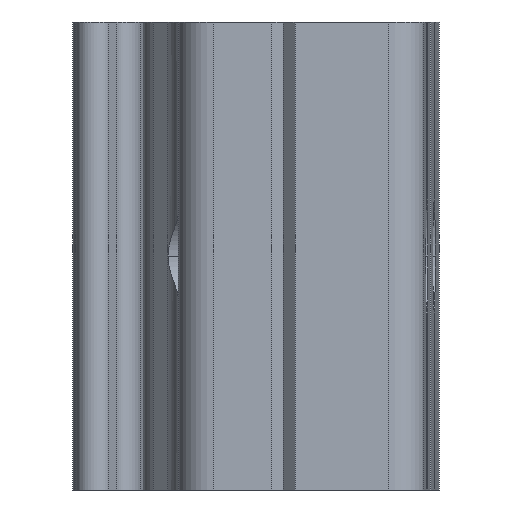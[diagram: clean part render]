
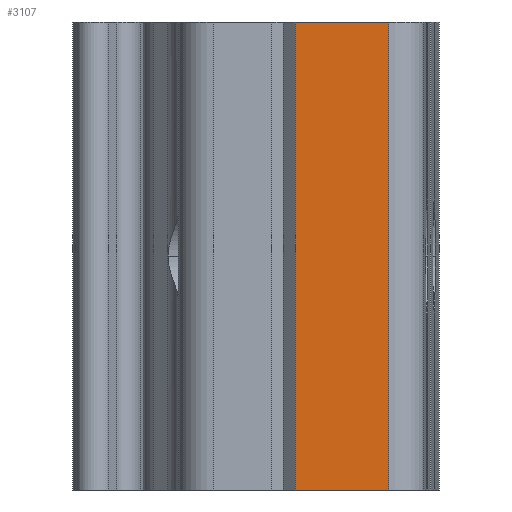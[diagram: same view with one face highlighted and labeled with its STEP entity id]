
A CAD part, front view. The second image highlights one B-rep face of the part: STEP entity #3107.
In plain terms, the highlighted planar face has unit normal (0, -1, 0).
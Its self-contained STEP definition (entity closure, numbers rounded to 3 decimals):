
#167 = VECTOR ( 'NONE', #1048, 1000. ) ;
#202 = VECTOR ( 'NONE', #1640, 1000. ) ;
#362 = ORIENTED_EDGE ( 'NONE', *, *, #2849, .T. ) ;
#489 = LINE ( 'NONE', #3278, #2084 ) ;
#506 = LINE ( 'NONE', #2096, #167 ) ;
#529 = CARTESIAN_POINT ( 'NONE',  ( 2.931, -67.73, 20. ) ) ;
#572 = FACE_OUTER_BOUND ( 'NONE', #1275, .T. ) ;
#729 = PLANE ( 'NONE',  #1877 ) ;
#745 = CARTESIAN_POINT ( 'NONE',  ( -5.07, -67.73, 20. ) ) ;
#1048 = DIRECTION ( 'NONE',  ( 1., 0., 0. ) ) ;
#1254 = ORIENTED_EDGE ( 'NONE', *, *, #3271, .F. ) ;
#1275 = EDGE_LOOP ( 'NONE', ( #2665, #3408, #1254, #362 ) ) ;
#1381 = CARTESIAN_POINT ( 'NONE',  ( -5.07, -67.73, 20. ) ) ;
#1407 = VERTEX_POINT ( 'NONE', #2270 ) ;
#1569 = LINE ( 'NONE', #2157, #202 ) ;
#1640 = DIRECTION ( 'NONE',  ( 1., 0., 0. ) ) ;
#1762 = EDGE_CURVE ( 'NONE', #2749, #1407, #1569, .T. ) ;
#1774 = DIRECTION ( 'NONE',  ( -1., 0., 0. ) ) ;
#1805 = LINE ( 'NONE', #1381, #2002 ) ;
#1877 = AXIS2_PLACEMENT_3D ( 'NONE', #745, #3110, #1774 ) ;
#2002 = VECTOR ( 'NONE', #2994, 1000. ) ;
#2084 = VECTOR ( 'NONE', #2464, 1000. ) ;
#2096 = CARTESIAN_POINT ( 'NONE',  ( -5.07, -67.73, 20. ) ) ;
#2112 = CARTESIAN_POINT ( 'NONE',  ( -5.07, -67.73, -20. ) ) ;
#2157 = CARTESIAN_POINT ( 'NONE',  ( -5.07, -67.73, -20. ) ) ;
#2270 = CARTESIAN_POINT ( 'NONE',  ( 2.931, -67.73, -20. ) ) ;
#2279 = CARTESIAN_POINT ( 'NONE',  ( -5.07, -67.73, 20. ) ) ;
#2464 = DIRECTION ( 'NONE',  ( 0., 0., -1. ) ) ;
#2495 = VERTEX_POINT ( 'NONE', #2279 ) ;
#2665 = ORIENTED_EDGE ( 'NONE', *, *, #1762, .T. ) ;
#2707 = VERTEX_POINT ( 'NONE', #529 ) ;
#2749 = VERTEX_POINT ( 'NONE', #2112 ) ;
#2849 = EDGE_CURVE ( 'NONE', #2495, #2749, #1805, .T. ) ;
#2994 = DIRECTION ( 'NONE',  ( 0., 0., -1. ) ) ;
#3032 = EDGE_CURVE ( 'NONE', #2707, #1407, #489, .T. ) ;
#3107 = ADVANCED_FACE ( 'NONE', ( #572 ), #729, .F. ) ;
#3110 = DIRECTION ( 'NONE',  ( 0., 1., 0. ) ) ;
#3271 = EDGE_CURVE ( 'NONE', #2495, #2707, #506, .T. ) ;
#3278 = CARTESIAN_POINT ( 'NONE',  ( 2.931, -67.73, 20. ) ) ;
#3408 = ORIENTED_EDGE ( 'NONE', *, *, #3032, .F. ) ;
